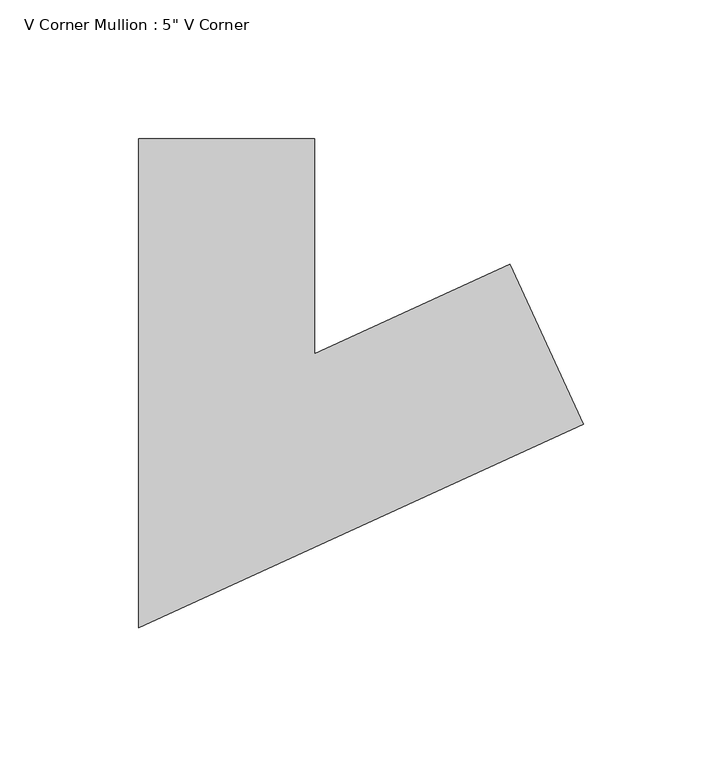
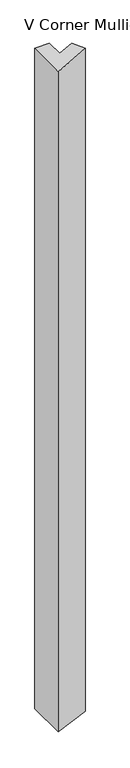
"""IFC4 building model written with IfcOpenShell, lengths in millimetres: member geometry."""

import ifcopenshell
import ifcopenshell.guid

model = None  # the IFC model being written
_history = None  # IfcOwnerHistory: only IFC2X3 demands one
_inside = {}  # id of a spatial element -> (the spatial element, [elements in it])
_under = {}  # id of a project, library or spatial element -> (it, [spatial elements below it])
_declared = {}  # id of a project -> (the project, [libraries it declares])
_typed = {}  # id of a type object -> (the type object, [elements of that type])
_made_of = {}  # id of a material, layer set ... -> (it, [elements and type objects made of it])


def new_model(schema):
    """Start an empty IFC model of exactly this schema.

    Asked for "IFC4X3", IfcOpenShell would pick the latest addendum, in which some entities
    have other attributes; the version numbers below select the first issue.
    IFC2X3 requires an IfcOwnerHistory on every rooted entity: one is made here for all.
    """
    global model, _history
    if schema == "IFC4X3":
        model = ifcopenshell.file(schema_version=(4, 3, 0, 0))
    else:
        model = ifcopenshell.file(schema=schema)
    _inside.clear()
    _under.clear()
    _declared.clear()
    _typed.clear()
    _made_of.clear()
    _history = None
    if model.schema == "IFC2X3":
        org = make("IfcOrganization", Name="unknown")
        user = make(
            "IfcPersonAndOrganization",
            ThePerson=make("IfcPerson", FamilyName="unknown"),
            TheOrganization=org,
        )
        app = make(
            "IfcApplication",
            ApplicationDeveloper=org,
            Version="unknown",
            ApplicationFullName="unknown",
            ApplicationIdentifier="unknown",
        )
        _history = make(
            "IfcOwnerHistory",
            OwningUser=user,
            OwningApplication=app,
            ChangeAction="ADDED",
            CreationDate=0,
        )
    return model


def make(cls, **values):
    """One entity of the class cls with the attributes given. An attribute that is None is left unset."""
    return model.create_entity(
        cls, **{name: value for name, value in values.items() if value is not None}
    )


def rooted(cls, **values):
    """An entity with a GlobalId (a new one), such as an element, a storey or a relation."""
    return make(cls, GlobalId=ifcopenshell.guid.new(), OwnerHistory=_history, **values)


def si_unit(unit_type, name, prefix=None):
    """IfcSIUnit, for example si_unit("LENGTHUNIT", "METRE", prefix="MILLI")."""
    return make("IfcSIUnit", UnitType=unit_type, Prefix=prefix, Name=name)


def assignment(units):
    """IfcUnitAssignment: the units of a project."""
    return None if units is None else make("IfcUnitAssignment", Units=units)


def point(xyz):
    """IfcCartesianPoint."""
    return None if xyz is None else make("IfcCartesianPoint", Coordinates=xyz)


def direction(xyz):
    """IfcDirection."""
    return None if xyz is None else make("IfcDirection", DirectionRatios=xyz)


def frame(location, z_axis=None, x_axis=None):
    """IfcAxis2Placement3D, a coordinate frame: its origin and axes. An axis left out is left unset."""
    return make(
        "IfcAxis2Placement3D",
        Location=point(location),
        Axis=direction(z_axis),
        RefDirection=direction(x_axis),
    )


def origin():
    """The frame at (0, 0, 0) with its axes left unset."""
    return frame((0.0, 0.0, 0.0))


def place(relative_to, where):
    """IfcLocalPlacement: puts the frame where relative to a parent placement (None: the world)."""
    return make(
        "IfcLocalPlacement", PlacementRelTo=relative_to, RelativePlacement=where
    )


def context(
    kind, dimensions, precision=None, world=None, true_north=None, identifier=None
):
    """IfcGeometricRepresentationContext, for example the 3D "Model" context."""
    return make(
        "IfcGeometricRepresentationContext",
        ContextIdentifier=identifier,
        ContextType=kind,
        CoordinateSpaceDimension=dimensions,
        Precision=precision,
        WorldCoordinateSystem=world,
        TrueNorth=true_north,
    )


def project(units=None, contexts=None):
    """IfcProject with its units and contexts."""
    return rooted(
        "IfcProject",
        Name="project",
        RepresentationContexts=contexts,
        UnitsInContext=assignment(units),
    )


def spatial(cls, under=None, at=None, **own):
    """A site, building, storey or space (cls), placed at a placement, below another one or the project."""
    s = rooted(cls, ObjectPlacement=at, **own)
    if under is not None:
        _under.setdefault(under.id(), (under, []))[1].append(s)
    return s


def faces_of(points, faces, orient=None, outer=None):
    """IfcFace entities. A face is a list of loops; a loop is a list of indices into points, from 0.

    orient and outer hold one flag for each loop. By default every Orientation is true, the
    first loop of a face is its IfcFaceOuterBound and the others are IfcFaceBound.
    """
    made = []
    for i, loops in enumerate(faces):
        bounds = []
        for j, loop in enumerate(loops):
            is_outer = j == 0 if outer is None else outer[i][j]
            bounds.append(
                make(
                    "IfcFaceOuterBound" if is_outer else "IfcFaceBound",
                    Bound=make("IfcPolyLoop", Polygon=[points[k] for k in loop]),
                    Orientation=True if orient is None else orient[i][j],
                )
            )
        made.append(make("IfcFace", Bounds=bounds))
    return made


def faceted_brep(points, faces, orient=None, outer=None, voids=None):
    """IfcFacetedBrep: a solid bounded by flat faces; with voids (closed shells), ...WithVoids."""
    shared = [point(p) for p in points]
    hull = make("IfcClosedShell", CfsFaces=faces_of(shared, faces, orient, outer))
    if voids is None:
        return make("IfcFacetedBrep", Outer=hull)
    return make(
        "IfcFacetedBrepWithVoids",
        Outer=hull,
        Voids=[
            make(cls, CfsFaces=faces_of(shared, fs, o, b)) for cls, fs, o, b in voids
        ],
    )


def shape(context_of_items, identifier, shape_type, items):
    """IfcShapeRepresentation: the items that make up one representation, for example the "Body"."""
    return make(
        "IfcShapeRepresentation",
        ContextOfItems=context_of_items,
        RepresentationIdentifier=identifier,
        RepresentationType=shape_type,
        Items=items,
    )


def source(mapping_origin, context_of_items, identifier, shape_type, items):
    """IfcRepresentationMap: a shape defined once, which mapped items show again and again."""
    return make(
        "IfcRepresentationMap",
        MappingOrigin=mapping_origin,
        MappedRepresentation=shape(context_of_items, identifier, shape_type, items),
    )


def transform(
    local_origin,
    x_axis=None,
    y_axis=None,
    z_axis=None,
    scale=None,
    scale2=None,
    scale3=None,
    uniform=True,
):
    """IfcCartesianTransformationOperator3D, or its non-uniform kind. x_axis, y_axis, z_axis: its Axis1, 2, 3."""
    if uniform:
        return make(
            "IfcCartesianTransformationOperator3D",
            Axis1=direction(x_axis),
            Axis2=direction(y_axis),
            LocalOrigin=point(local_origin),
            Scale=scale,
            Axis3=direction(z_axis),
        )
    return make(
        "IfcCartesianTransformationOperator3DnonUniform",
        Axis1=direction(x_axis),
        Axis2=direction(y_axis),
        LocalOrigin=point(local_origin),
        Scale=scale,
        Axis3=direction(z_axis),
        Scale2=scale2,
        Scale3=scale3,
    )


def mapped(mapping_source, mapping_target):
    """IfcMappedItem: shows the shape of a source again, moved by a transform."""
    return make(
        "IfcMappedItem", MappingSource=mapping_source, MappingTarget=mapping_target
    )


def made_of(thing, what):
    """Note that an element or type object is made of a material, layer set ...; save() writes the relation."""
    if what is not None:
        _made_of.setdefault(what.id(), (what, []))[1].append(thing)
    return thing


def element(
    cls,
    number,
    at=None,
    inside=None,
    cuts=None,
    type_object=None,
    material=None,
    context=None,
    identifier="Body",
    shape_type=None,
    held_by="IfcProductDefinitionShape",
    body=None,
    shapes=None,
    **own,
):
    """One element of the class cls, such as IfcWall. Its Tag is "e" and its number.

    at: its placement. inside: the storey or other place that contains it. cuts: it is an
    opening in that element (IfcRelVoidsElement). A single representation is given by context,
    identifier, shape_type and body (its items); several are given by shapes. held_by: the class
    of the entity that holds the representations. save() writes the other relations.
    """
    e = rooted(cls, Tag="e%d" % number, ObjectPlacement=at, **own)
    if body is not None:
        shapes = [shape(context, identifier, shape_type, body)]
    if shapes is not None:
        e.Representation = make(held_by, Representations=shapes)
    if inside is not None:
        _inside.setdefault(inside.id(), (inside, []))[1].append(e)
    if cuts is not None:
        rooted(
            "IfcRelVoidsElement", RelatingBuildingElement=cuts, RelatedOpeningElement=e
        )
    if type_object is not None:
        _typed.setdefault(type_object.id(), (type_object, []))[1].append(e)
    return made_of(e, material)


def aggregate(whole, parts):
    """IfcRelAggregates: a whole, such as a stair, and the parts it consists of."""
    return rooted("IfcRelAggregates", RelatingObject=whole, RelatedObjects=parts)


def save(model, path):
    """Write the relations noted so far, then the file.

    IfcRelAggregates (storeys below a building ...), IfcRelContainedInSpatialStructure (elements
    in a storey), IfcRelDefinesByType, IfcRelAssociatesMaterial and IfcRelDeclares: one each for
    every whole, place, type object, material and project.
    """
    for whole, parts in _under.values():
        aggregate(whole, parts)
    for where, things in _inside.values():
        rooted(
            "IfcRelContainedInSpatialStructure",
            RelatedElements=things,
            RelatingStructure=where,
        )
    for kind, things in _typed.values():
        rooted("IfcRelDefinesByType", RelatedObjects=things, RelatingType=kind)
    for what, things in _made_of.values():
        rooted("IfcRelAssociatesMaterial", RelatedObjects=things, RelatingMaterial=what)
    for by, libraries in _declared.values():
        rooted("IfcRelDeclares", RelatingContext=by, RelatedDefinitions=libraries)
    model.write(path)


def member_d5314287(model_context):
    return source(origin(), model_context, "Body", "Brep", [
        faceted_brep([(61.49523, 18.2208415, 2.4549232), (87.9205542, -39.5195451, 3.5098366), (87.9205542, -39.5195451, -3051.2784327), (61.49523, 18.2208415, -3050.3169752), (-9.0228811, -14.0523047, -0.3601983), (-9.0228811, -14.0523047, -3047.7512485), (-9.0228811, 63.5, -0.3601983), (-9.0228811, 63.5, -3047.7512485), (-72.5228811, 63.5, -2.895153), (-72.5228811, 63.5, -3045.4408682), (-72.5228811, -112.9476953, -2.895153), (-72.5228811, -112.9476953, -3045.4408682)], [[[0, 1, 2, 3]], [[4, 0, 3, 5]], [[6, 4, 5, 7]], [[8, 6, 7, 9]], [[10, 8, 9, 11]], [[1, 10, 11, 2]], [[1, 0, 4, 6, 8, 10]], [[2, 11, 9, 7, 5, 3]]]),
    ])


if __name__ == "__main__":
    model = new_model("IFC4")
    model_context = context("Model", 3, world=origin())
    ifc_project = project(units=[si_unit("LENGTHUNIT", "METRE", prefix="MILLI")], contexts=[model_context])
    site = spatial("IfcSite", under=ifc_project)
    building = spatial("IfcBuilding", under=site)
    placement = place(None, origin())
    member_shape = member_d5314287(model_context)
    element("IfcMember", 1, ObjectType="V Corner Mullion : 5\" V Corner", at=placement, inside=building, context=model_context, shape_type="MappedRepresentation", body=[
        mapped(member_shape, transform((0.0, 0.0, 0.0), x_axis=(1.0, 0.0, 0.0), y_axis=(0.0, 1.0, 0.0), z_axis=(0.0, 0.0, 1.0))),
    ])
    save(model, "model.ifc")
